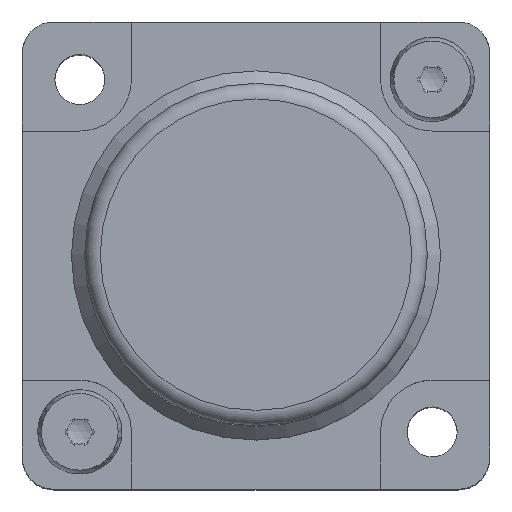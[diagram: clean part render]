
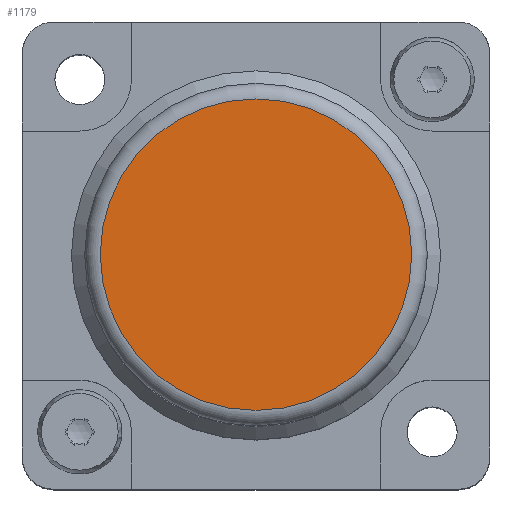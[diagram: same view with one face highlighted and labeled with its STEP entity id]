
A CAD part, top view. The second image highlights one B-rep face of the part: STEP entity #1179.
In plain terms, the highlighted planar face has unit normal (0, 0, 1).
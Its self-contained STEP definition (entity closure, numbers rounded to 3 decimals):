
#1128=CARTESIAN_POINT('',(10.0,0.,65.0));
#1129=VERTEX_POINT('',#1128);
#1130=CARTESIAN_POINT('',(0.,0.,65.0));
#1131=DIRECTION('',(0.0,0.0,-1.0));
#1132=DIRECTION('',(-1.0,0.0,0.0));
#1133=AXIS2_PLACEMENT_3D('',#1130,#1131,#1132);
#1134=CIRCLE('',#1133,10.0);
#1135=EDGE_CURVE('',#1129,#1129,#1134,.T.);
#1171=CARTESIAN_POINT('',(0.,0.,65.0));
#1172=DIRECTION('',(0.0,0.0,-1.0));
#1173=DIRECTION('',(-1.0,0.0,0.0));
#1174=AXIS2_PLACEMENT_3D('',#1171,#1172,#1173);
#1175=PLANE('',#1174);
#1176=ORIENTED_EDGE('',*,*,#1135,.F.);
#1177=EDGE_LOOP('',(#1176));
#1178=FACE_OUTER_BOUND('',#1177,.T.);
#1179=ADVANCED_FACE('',(#1178),#1175,.F.);
